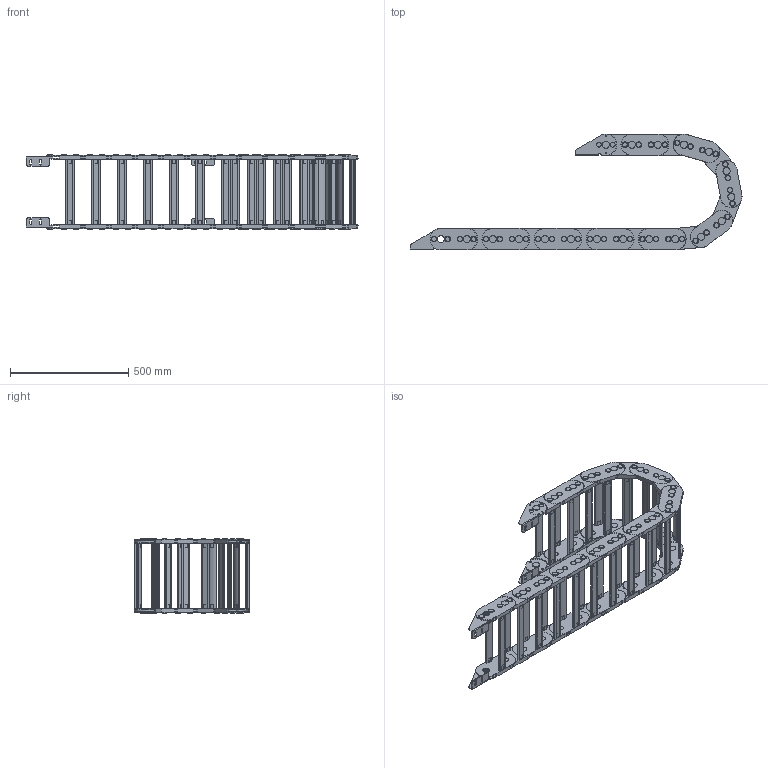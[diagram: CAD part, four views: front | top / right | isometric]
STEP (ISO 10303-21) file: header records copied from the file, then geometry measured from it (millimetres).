
FILE_DESCRIPTION((''),'2;1');
FILE_NAME('GD-65-R200_ASM','2022-07-29T19:02:25',('admin'),(''),'CREO PARAMETRIC BY PTC INC, 2021164','CREO PARAMETRIC BY PTC INC, 2021164','');
FILE_SCHEMA(('CONFIG_CONTROL_DESIGN','GEOMETRIC_VALIDATION_PROPERTIES_MIM'));
Length unit declared in the file: millimetre
Products named in the file (5): 65-R150; 65-R150-1; TLT-1; TLT-2; GD-65-R200_ASM
Assembly tree (20 placements, depth 2):
  GD-65-R200_ASM
    65-R150  x9
    65-R150-1  x9
    TLT-1
    TLT-2
Bounding box: 1402 x 488.59 x 315.7 mm (x, y, z)
Volume: 9827289.1 mm3; surface area: 2937368.4 mm2
Topology: 76 solids, 76 shells, 2332 faces, 6102 edges, 4146 vertices
Faces by surface type: cylinder 1116, plane 1036, cone 180
Entity records: 16191 total; most frequent: DIRECTION 2486, CARTESIAN_POINT 2388, ORIENTED_EDGE 2220, EDGE_CURVE 1110, AXIS2_PLACEMENT_3D 951, VERTEX_POINT 754, PRESENTATION_STYLE_ASSIGNMENT 634, STYLED_ITEM 633
